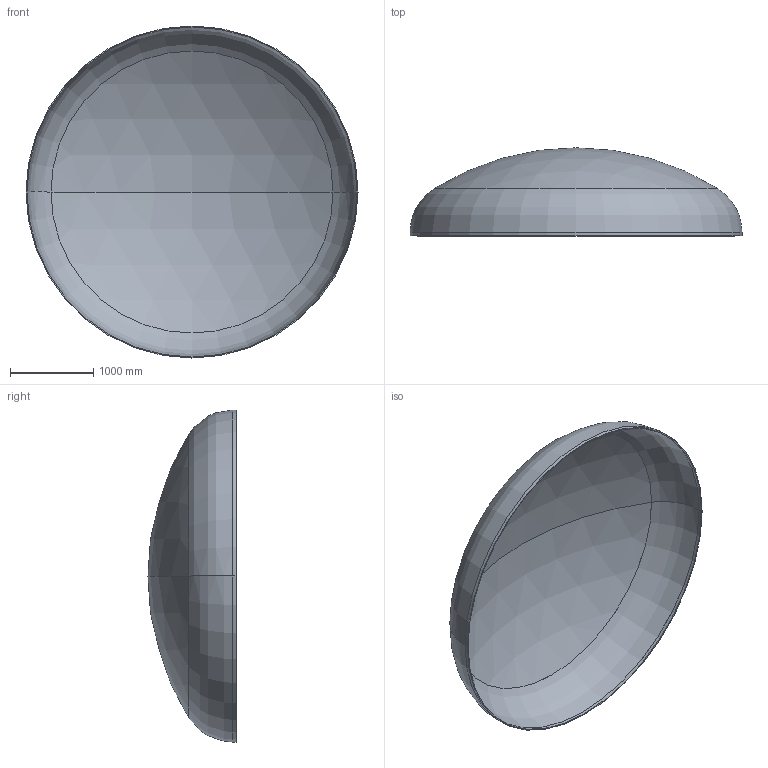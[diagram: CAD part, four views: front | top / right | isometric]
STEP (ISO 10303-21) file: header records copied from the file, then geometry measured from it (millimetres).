
FILE_DESCRIPTION (( 'STEP AP203' ), '1' );
FILE_NAME ('DIN 28013 Korbbogenform_-_Boden DIN 28013 - 4000 x 40 - I - s=12.step', '2016-07-01T22:01:56', ( '' ), ( '' ), 'SwSTEP 2.0', 'SolidWorks 2013', '' );
FILE_SCHEMA (( 'CONFIG_CONTROL_DESIGN' ));
Length unit declared in the file: millimetre
Products named in the file (1): DIN 28013 Korbbogenform_-_Boden DIN 28013 - 4000 x 40 - I - s=12
Bounding box: 4000 x 1061.77 x 4000 mm (x, y, z)
Volume: 213986934 mm3; surface area: 35815120.1 mm2
Topology: 1 solids, 1 shells, 13 faces, 24 edges, 14 vertices
Faces by surface type: torus 4, cylinder 4, sphere 4, plane 1
Entity records: 407 total; most frequent: DIRECTION 72, CARTESIAN_POINT 52, ORIENTED_EDGE 48, AXIS2_PLACEMENT_3D 34, EDGE_CURVE 24, CIRCLE 20, VERTEX_POINT 14, EDGE_LOOP 14
